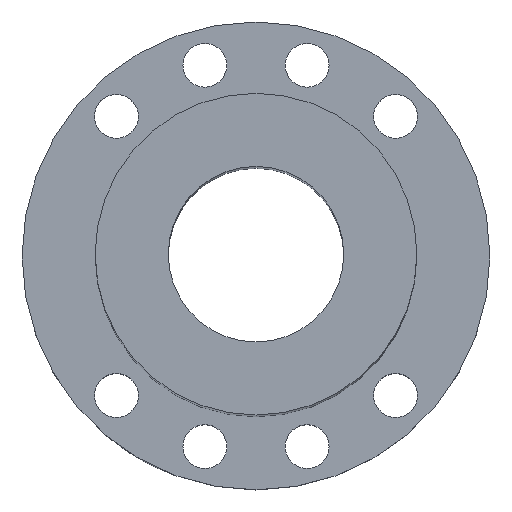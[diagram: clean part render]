
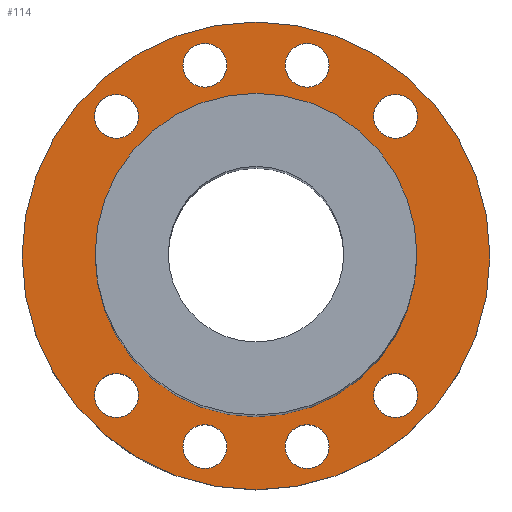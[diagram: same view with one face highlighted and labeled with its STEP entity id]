
A CAD part, top view. The second image highlights one B-rep face of the part: STEP entity #114.
In plain terms, the highlighted planar face has unit normal (0, 0, 1).
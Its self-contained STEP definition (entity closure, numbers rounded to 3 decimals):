
#99=PLANE('',#401);
#114=ADVANCED_FACE('',(#169,#170,#171,#172,#173,#174,#175,#176,#177,#178),
#99,.T.);
#169=FACE_BOUND('',#221,.T.);
#170=FACE_BOUND('',#222,.T.);
#171=FACE_BOUND('',#223,.T.);
#172=FACE_BOUND('',#224,.T.);
#173=FACE_BOUND('',#225,.T.);
#174=FACE_BOUND('',#226,.T.);
#175=FACE_BOUND('',#227,.T.);
#176=FACE_BOUND('',#228,.T.);
#177=FACE_BOUND('',#229,.T.);
#178=FACE_BOUND('',#230,.T.);
#221=EDGE_LOOP('',(#273));
#222=EDGE_LOOP('',(#274));
#223=EDGE_LOOP('',(#275));
#224=EDGE_LOOP('',(#276));
#225=EDGE_LOOP('',(#277));
#226=EDGE_LOOP('',(#278));
#227=EDGE_LOOP('',(#279));
#228=EDGE_LOOP('',(#280));
#229=EDGE_LOOP('',(#281));
#230=EDGE_LOOP('',(#282));
#273=ORIENTED_EDGE('',*,*,#316,.T.);
#274=ORIENTED_EDGE('',*,*,#337,.T.);
#275=ORIENTED_EDGE('',*,*,#336,.F.);
#276=ORIENTED_EDGE('',*,*,#335,.T.);
#277=ORIENTED_EDGE('',*,*,#318,.T.);
#278=ORIENTED_EDGE('',*,*,#334,.F.);
#279=ORIENTED_EDGE('',*,*,#333,.F.);
#280=ORIENTED_EDGE('',*,*,#332,.T.);
#281=ORIENTED_EDGE('',*,*,#331,.F.);
#282=ORIENTED_EDGE('',*,*,#338,.T.);
#290=VERTEX_POINT('',#495);
#292=VERTEX_POINT('',#557);
#305=VERTEX_POINT('',#644);
#306=VERTEX_POINT('',#647);
#307=VERTEX_POINT('',#650);
#308=VERTEX_POINT('',#653);
#309=VERTEX_POINT('',#656);
#310=VERTEX_POINT('',#659);
#311=VERTEX_POINT('',#662);
#312=VERTEX_POINT('',#665);
#316=EDGE_CURVE('',#290,#290,#342,.T.);
#318=EDGE_CURVE('',#292,#292,#343,.T.);
#331=EDGE_CURVE('',#305,#305,#355,.T.);
#332=EDGE_CURVE('',#306,#306,#356,.T.);
#333=EDGE_CURVE('',#307,#307,#357,.T.);
#334=EDGE_CURVE('',#308,#308,#358,.T.);
#335=EDGE_CURVE('',#309,#309,#359,.T.);
#336=EDGE_CURVE('',#310,#310,#360,.T.);
#337=EDGE_CURVE('',#311,#311,#361,.T.);
#338=EDGE_CURVE('',#312,#312,#362,.T.);
#342=CIRCLE('',#367,48.);
#343=CIRCLE('',#369,33.);
#355=CIRCLE('',#385,4.5);
#356=CIRCLE('',#387,4.5);
#357=CIRCLE('',#389,4.5);
#358=CIRCLE('',#391,4.5);
#359=CIRCLE('',#393,4.5);
#360=CIRCLE('',#395,4.5);
#361=CIRCLE('',#397,4.5);
#362=CIRCLE('',#399,4.5);
#367=AXIS2_PLACEMENT_3D('',#494,#411,#412);
#369=AXIS2_PLACEMENT_3D('',#556,#415,#416);
#385=AXIS2_PLACEMENT_3D('',#643,#447,#448);
#387=AXIS2_PLACEMENT_3D('',#646,#451,#452);
#389=AXIS2_PLACEMENT_3D('',#649,#455,#456);
#391=AXIS2_PLACEMENT_3D('',#652,#459,#460);
#393=AXIS2_PLACEMENT_3D('',#655,#463,#464);
#395=AXIS2_PLACEMENT_3D('',#658,#467,#468);
#397=AXIS2_PLACEMENT_3D('',#661,#471,#472);
#399=AXIS2_PLACEMENT_3D('',#664,#475,#476);
#401=AXIS2_PLACEMENT_3D('',#667,#479,#480);
#411=DIRECTION('',(0.,0.,1.));
#412=DIRECTION('',(1.,0.,0.));
#415=DIRECTION('',(0.,0.,-1.));
#416=DIRECTION('',(1.,0.,0.));
#447=DIRECTION('',(0.,0.,1.));
#448=DIRECTION('',(1.,0.,0.));
#451=DIRECTION('',(0.,0.,-1.));
#452=DIRECTION('',(-1.,0.,0.));
#455=DIRECTION('',(0.,0.,1.));
#456=DIRECTION('',(-1.,0.,0.));
#459=DIRECTION('',(0.,0.,1.));
#460=DIRECTION('',(-1.,0.,0.));
#463=DIRECTION('',(0.,0.,-1.));
#464=DIRECTION('',(1.,0.,0.));
#467=DIRECTION('',(0.,0.,1.));
#468=DIRECTION('',(1.,0.,0.));
#471=DIRECTION('',(0.,0.,-1.));
#472=DIRECTION('',(1.,0.,0.));
#475=DIRECTION('',(0.,0.,-1.));
#476=DIRECTION('',(-1.,0.,0.));
#479=DIRECTION('',(0.,0.,1.));
#480=DIRECTION('',(1.,0.,0.));
#494=CARTESIAN_POINT('',(0.,0.,14.));
#495=CARTESIAN_POINT('',(48.,0.,14.));
#556=CARTESIAN_POINT('',(0.,0.,14.));
#557=CARTESIAN_POINT('',(33.,0.,14.));
#643=CARTESIAN_POINT('',(-10.482,39.12,14.));
#644=CARTESIAN_POINT('',(-5.982,39.12,14.));
#646=CARTESIAN_POINT('',(10.482,39.12,14.));
#647=CARTESIAN_POINT('',(5.982,39.12,14.));
#649=CARTESIAN_POINT('',(28.638,-28.638,14.));
#650=CARTESIAN_POINT('',(24.138,-28.638,14.));
#652=CARTESIAN_POINT('',(10.482,-39.12,14.));
#653=CARTESIAN_POINT('',(5.982,-39.12,14.));
#655=CARTESIAN_POINT('',(-10.482,-39.12,14.));
#656=CARTESIAN_POINT('',(-5.982,-39.12,14.));
#658=CARTESIAN_POINT('',(-28.638,28.638,14.));
#659=CARTESIAN_POINT('',(-24.138,28.638,14.));
#661=CARTESIAN_POINT('',(-28.638,-28.638,14.));
#662=CARTESIAN_POINT('',(-24.138,-28.638,14.));
#664=CARTESIAN_POINT('',(28.638,28.638,14.));
#665=CARTESIAN_POINT('',(24.138,28.638,14.));
#667=CARTESIAN_POINT('',(-14.319,-14.319,14.));
